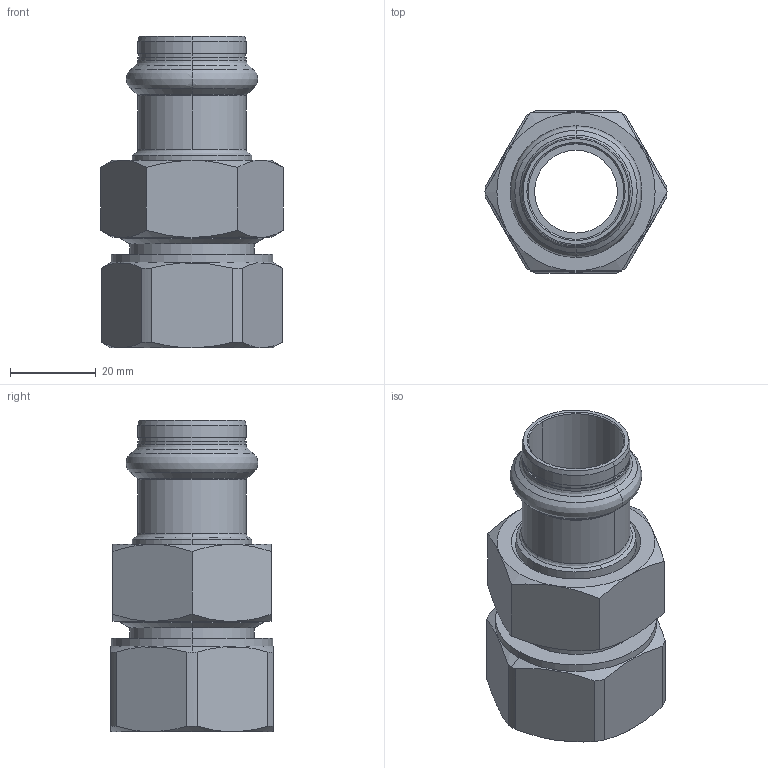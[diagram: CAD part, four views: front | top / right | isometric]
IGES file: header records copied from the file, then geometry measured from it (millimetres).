
Start section: Elysium IGES Interface
Global section: file name: F:\3d modellen sudo\S-Pr VP\SP6330GV\6330GVW221.igs; native system: CoCreate Modeling 17.00A  17-Jun-2010; preprocessor: CoCreate IGES_3D V2.2; author: Unknown; organization: Unknown; date: 20130129.093822; units: millimetre
Bounding box: 42.72 x 38 x 72.8 mm (x, y, z)
Volume: 31187 mm3; surface area: 20377 mm2
Topology: 3 solids, 3 shells, 136 faces, 314 edges, 186 vertices
Faces by surface type: bspline 136
